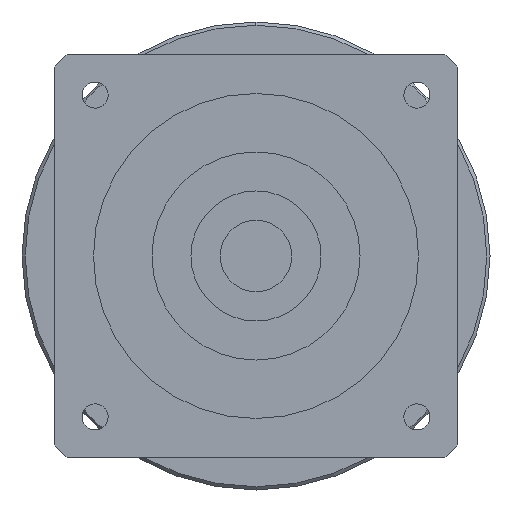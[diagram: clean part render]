
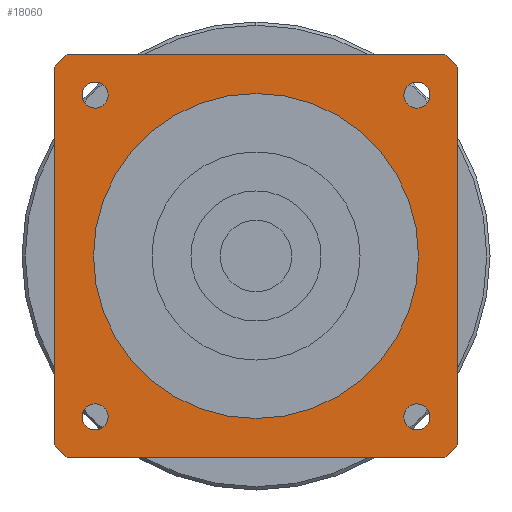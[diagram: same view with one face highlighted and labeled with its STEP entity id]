
A CAD part, left-side view. The second image highlights one B-rep face of the part: STEP entity #18060.
In plain terms, the highlighted planar face has unit normal (-1, 0, 0) as drawn and (0, 0, -1) by its records, which use the part's own axes.
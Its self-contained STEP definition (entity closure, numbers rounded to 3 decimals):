
#12210=CARTESIAN_POINT('',(29.073,31.,-92.));
#12220=VERTEX_POINT('',#12210);
#12250=CARTESIAN_POINT('',(0.,0.,
-92.));
#12260=DIRECTION('',(0.,0.,1.));
#12270=DIRECTION('',(0.,-1.,0.));
#12280=AXIS2_PLACEMENT_3D('',#12250,#12260,#12270);
#12290=CIRCLE('',#12280,42.5);
#12300=CARTESIAN_POINT('',(31.,29.073,-92.));
#12310=VERTEX_POINT('',#12300);
#12320=EDGE_CURVE('',#12310,#12220,#12290,.T.);
#12630=CARTESIAN_POINT('',(-31.,29.073,-92.));
#12640=VERTEX_POINT('',#12630);
#12820=CARTESIAN_POINT('',(-31.,-29.073,-92.));
#12830=VERTEX_POINT('',#12820);
#12860=CARTESIAN_POINT('',(-31.,31.,-92.));
#12870=DIRECTION('',(0.,-1.,0.));
#12880=VECTOR('',#12870,1000.);
#12890=LINE('',#12860,#12880);
#12900=EDGE_CURVE('',#12640,#12830,#12890,.T.);
#15260=CARTESIAN_POINT('',(-29.073,-31.,-92.));
#15270=VERTEX_POINT('',#15260);
#15300=CARTESIAN_POINT('',(0.,0.,
-92.));
#15310=DIRECTION('',(0.,0.,1.));
#15320=DIRECTION('',(0.,-1.,0.));
#15330=AXIS2_PLACEMENT_3D('',#15300,#15310,#15320);
#15340=CIRCLE('',#15330,42.5);
#15350=EDGE_CURVE('',#12830,#15270,#15340,.T.);
#15840=CARTESIAN_POINT('',(29.073,-31.,-92.));
#15850=VERTEX_POINT('',#15840);
#15930=CARTESIAN_POINT('',(31.,-29.073,-92.));
#15940=VERTEX_POINT('',#15930);
#15970=CARTESIAN_POINT('',(0.,0.,
-92.));
#15980=DIRECTION('',(0.,0.,1.));
#15990=DIRECTION('',(0.,-1.,0.));
#16000=AXIS2_PLACEMENT_3D('',#15970,#15980,#15990);
#16010=CIRCLE('',#16000,42.5);
#16020=EDGE_CURVE('',#15850,#15940,#16010,.T.);
#16280=CARTESIAN_POINT('',(-29.073,31.,-92.));
#16290=VERTEX_POINT('',#16280);
#16320=CARTESIAN_POINT('',(31.,31.,-92.));
#16330=DIRECTION('',(-1.,0.,0.));
#16340=VECTOR('',#16330,1000.);
#16350=LINE('',#16320,#16340);
#16360=EDGE_CURVE('',#12220,#16290,#16350,.T.);
#16760=CARTESIAN_POINT('',(0.,0.,
-92.));
#16770=DIRECTION('',(0.,0.,1.));
#16780=DIRECTION('',(0.,-1.,0.));
#16790=AXIS2_PLACEMENT_3D('',#16760,#16770,#16780);
#16800=CIRCLE('',#16790,42.5);
#16810=EDGE_CURVE('',#16290,#12640,#16800,.T.);
#16860=CARTESIAN_POINT('',(-31.,31.,-92.));
#16870=DIRECTION('',(0.,0.,1.));
#16880=DIRECTION('',(-1.,0.,0.));
#16890=AXIS2_PLACEMENT_3D('',#16860,#16870,#16880);
#16900=PLANE('',#16890);
#16910=CARTESIAN_POINT('',(24.749,-24.749,-92.));
#16920=DIRECTION('',(0.,0.,-1.));
#16930=DIRECTION('',(1.,0.,0.));
#16940=AXIS2_PLACEMENT_3D('',#16910,#16920,#16930);
#16950=CIRCLE('',#16940,2.);
#16960=CARTESIAN_POINT('',(26.749,-24.749,-92.));
#16970=VERTEX_POINT('',#16960);
#16980=CARTESIAN_POINT('',(24.749,-26.749,-92.));
#16990=VERTEX_POINT('',#16980);
#17000=EDGE_CURVE('',#16970,#16990,#16950,.T.);
#17010=ORIENTED_EDGE('',*,*,#17000,.F.);
#17020=CARTESIAN_POINT('',(24.749,-22.749,-92.));
#17030=VERTEX_POINT('',#17020);
#17040=EDGE_CURVE('',#16990,#17030,#16950,.T.);
#17050=ORIENTED_EDGE('',*,*,#17040,.F.);
#17060=EDGE_CURVE('',#17030,#16970,#16950,.T.);
#17070=ORIENTED_EDGE('',*,*,#17060,.F.);
#17080=EDGE_LOOP('',(#17070,#17050,#17010));
#17090=FACE_BOUND('',#17080,.T.);
#17100=CARTESIAN_POINT('',(24.749,24.749,-92.));
#17110=DIRECTION('',(0.,0.,-1.));
#17120=DIRECTION('',(0.,1.,0.));
#17130=AXIS2_PLACEMENT_3D('',#17100,#17110,#17120);
#17140=CIRCLE('',#17130,2.);
#17150=CARTESIAN_POINT('',(24.749,26.749,-92.));
#17160=VERTEX_POINT('',#17150);
#17170=CARTESIAN_POINT('',(26.749,24.749,-92.));
#17180=VERTEX_POINT('',#17170);
#17190=EDGE_CURVE('',#17160,#17180,#17140,.T.);
#17200=ORIENTED_EDGE('',*,*,#17190,.F.);
#17210=CARTESIAN_POINT('',(22.749,24.749,-92.));
#17220=VERTEX_POINT('',#17210);
#17230=EDGE_CURVE('',#17180,#17220,#17140,.T.);
#17240=ORIENTED_EDGE('',*,*,#17230,.F.);
#17250=EDGE_CURVE('',#17220,#17160,#17140,.T.);
#17260=ORIENTED_EDGE('',*,*,#17250,.F.);
#17270=EDGE_LOOP('',(#17260,#17240,#17200));
#17280=FACE_BOUND('',#17270,.T.);
#17290=CARTESIAN_POINT('',(-24.749,24.749,-92.));
#17300=DIRECTION('',(0.,0.,-1.));
#17310=DIRECTION('',(-1.,0.,0.));
#17320=AXIS2_PLACEMENT_3D('',#17290,#17300,#17310);
#17330=CIRCLE('',#17320,2.);
#17340=CARTESIAN_POINT('',(-26.749,24.749,-92.));
#17350=VERTEX_POINT('',#17340);
#17360=CARTESIAN_POINT('',(-24.749,26.749,-92.));
#17370=VERTEX_POINT('',#17360);
#17380=EDGE_CURVE('',#17350,#17370,#17330,.T.);
#17390=ORIENTED_EDGE('',*,*,#17380,.F.);
#17400=CARTESIAN_POINT('',(-24.749,22.749,-92.));
#17410=VERTEX_POINT('',#17400);
#17420=EDGE_CURVE('',#17370,#17410,#17330,.T.);
#17430=ORIENTED_EDGE('',*,*,#17420,.F.);
#17440=EDGE_CURVE('',#17410,#17350,#17330,.T.);
#17450=ORIENTED_EDGE('',*,*,#17440,.F.);
#17460=EDGE_LOOP('',(#17450,#17430,#17390));
#17470=FACE_BOUND('',#17460,.T.);
#17480=CARTESIAN_POINT('',(-24.749,-24.749,-92.));
#17490=DIRECTION('',(0.,0.,-1.));
#17500=DIRECTION('',(0.,-1.,0.));
#17510=AXIS2_PLACEMENT_3D('',#17480,#17490,#17500);
#17520=CIRCLE('',#17510,2.);
#17530=CARTESIAN_POINT('',(-24.749,-26.749,-92.));
#17540=VERTEX_POINT('',#17530);
#17550=CARTESIAN_POINT('',(-26.749,-24.749,-92.));
#17560=VERTEX_POINT('',#17550);
#17570=EDGE_CURVE('',#17540,#17560,#17520,.T.);
#17580=ORIENTED_EDGE('',*,*,#17570,.F.);
#17590=CARTESIAN_POINT('',(-22.749,-24.749,-92.));
#17600=VERTEX_POINT('',#17590);
#17610=EDGE_CURVE('',#17560,#17600,#17520,.T.);
#17620=ORIENTED_EDGE('',*,*,#17610,.F.);
#17630=EDGE_CURVE('',#17600,#17540,#17520,.T.);
#17640=ORIENTED_EDGE('',*,*,#17630,.F.);
#17650=EDGE_LOOP('',(#17640,#17620,#17580));
#17660=FACE_BOUND('',#17650,.T.);
#17670=ORIENTED_EDGE('',*,*,#15350,.F.);
#17680=CARTESIAN_POINT('',(-31.,-31.,-92.));
#17690=DIRECTION('',(1.,0.,0.));
#17700=VECTOR('',#17690,1000.);
#17710=LINE('',#17680,#17700);
#17720=EDGE_CURVE('',#15270,#15850,#17710,.T.);
#17730=ORIENTED_EDGE('',*,*,#17720,.F.);
#17740=ORIENTED_EDGE('',*,*,#16020,.F.);
#17750=CARTESIAN_POINT('',(31.,-31.,-92.));
#17760=DIRECTION('',(0.,1.,0.));
#17770=VECTOR('',#17760,1000.);
#17780=LINE('',#17750,#17770);
#17790=EDGE_CURVE('',#15940,#12310,#17780,.T.);
#17800=ORIENTED_EDGE('',*,*,#17790,.F.);
#17810=ORIENTED_EDGE('',*,*,#12320,.F.);
#17820=ORIENTED_EDGE('',*,*,#16360,.F.);
#17830=ORIENTED_EDGE('',*,*,#16810,.F.);
#17840=ORIENTED_EDGE('',*,*,#12900,.F.);
#17850=EDGE_LOOP('',(#17840,#17830,#17820,#17810,#17800,#17740,#17730,
#17670));
#17860=FACE_OUTER_BOUND('',#17850,.T.);
#17870=CARTESIAN_POINT('',(0.,0.,
-92.));
#17880=DIRECTION('',(0.,0.,1.));
#17890=DIRECTION('',(0.,-1.,0.));
#17900=AXIS2_PLACEMENT_3D('',#17870,#17880,#17890);
#17910=CIRCLE('',#17900,25.);
#17920=CARTESIAN_POINT('',(25.,0.,-92.));
#17930=VERTEX_POINT('',#17920);
#17940=CARTESIAN_POINT('',(-25.,0.,-92.));
#17950=VERTEX_POINT('',#17940);
#17960=EDGE_CURVE('',#17930,#17950,#17910,.T.);
#17970=ORIENTED_EDGE('',*,*,#17960,.T.);
#17980=CARTESIAN_POINT('',(0.,-25.,-92.));
#17990=VERTEX_POINT('',#17980);
#18000=EDGE_CURVE('',#17990,#17930,#17910,.T.);
#18010=ORIENTED_EDGE('',*,*,#18000,.T.);
#18020=EDGE_CURVE('',#17950,#17990,#17910,.T.);
#18030=ORIENTED_EDGE('',*,*,#18020,.T.);
#18040=EDGE_LOOP('',(#18030,#18010,#17970));
#18050=FACE_BOUND('',#18040,.T.);
#18060=ADVANCED_FACE('',(#17090,#17280,#17470,#17660,#17860,#18050),
#16900,.F.);
